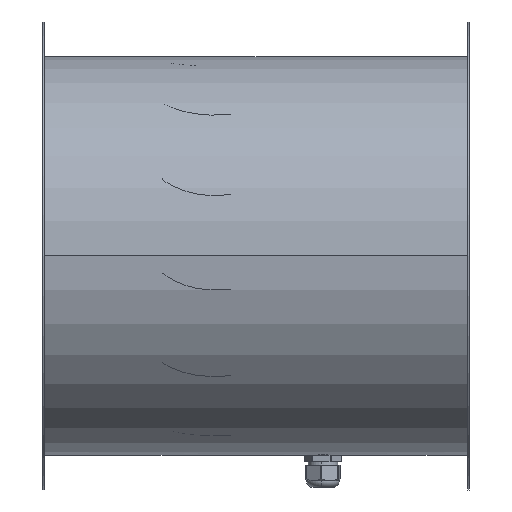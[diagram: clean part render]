
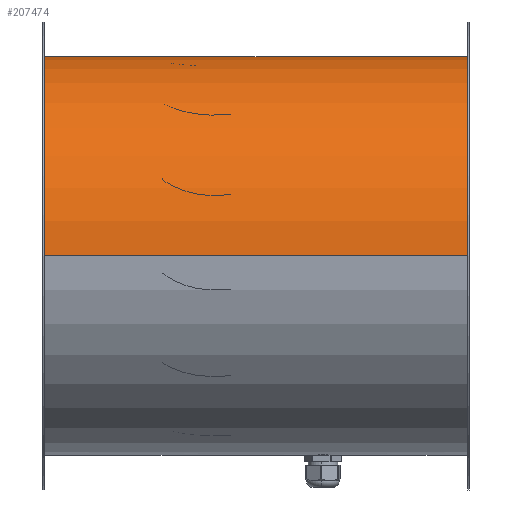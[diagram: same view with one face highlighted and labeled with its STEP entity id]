
A CAD part, top view. The second image highlights one B-rep face of the part: STEP entity #207474.
In plain terms, the highlighted cylindrical face has radius 178.75 mm (diameter 357.5 mm), a partial arc.
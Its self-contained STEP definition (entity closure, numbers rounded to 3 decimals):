
#3845 = VERTEX_POINT ( 'NONE', #235396 ) ;
#7949 = LINE ( 'NONE', #234521, #203206 ) ;
#8010 = CARTESIAN_POINT ( 'NONE',  ( -89.5, 3.021, -178.724 ) ) ;
#11393 = ORIENTED_EDGE ( 'NONE', *, *, #118586, .T. ) ;
#12224 = DIRECTION ( 'NONE',  ( 1., 0., 0. ) ) ;
#15870 = CARTESIAN_POINT ( 'NONE',  ( 288.5, 3., -178.725 ) ) ;
#16399 = CARTESIAN_POINT ( 'NONE',  ( 289.125, 0., 178.75 ) ) ;
#17296 = CIRCLE ( 'NONE', #168995, 178.75 ) ;
#17955 = DIRECTION ( 'NONE',  ( 0., 0., 1. ) ) ;
#25740 = LINE ( 'NONE', #149273, #120449 ) ;
#25777 = VERTEX_POINT ( 'NONE', #28941 ) ;
#28941 = CARTESIAN_POINT ( 'NONE',  ( -90.125, 0., 178.75 ) ) ;
#36493 = DIRECTION ( 'NONE',  ( 1., 0., 0. ) ) ;
#36636 = ORIENTED_EDGE ( 'NONE', *, *, #55218, .F. ) ;
#37504 = AXIS2_PLACEMENT_3D ( 'NONE', #244515, #131285, #17955 ) ;
#39262 = CARTESIAN_POINT ( 'NONE',  ( 288.5, 0., 0. ) ) ;
#39878 = ORIENTED_EDGE ( 'NONE', *, *, #91729, .F. ) ;
#41606 = ORIENTED_EDGE ( 'NONE', *, *, #157652, .T. ) ;
#46115 = LINE ( 'NONE', #186198, #134903 ) ;
#47215 = EDGE_CURVE ( 'NONE', #3845, #157402, #176680, .T. ) ;
#47762 = EDGE_LOOP ( 'NONE', ( #204465, #214869, #41606, #36636, #59880, #77276, #11393, #39878, #79092, #74384 ) ) ;
#52414 = DIRECTION ( 'NONE',  ( 1., 0., 0. ) ) ;
#52544 = VERTEX_POINT ( 'NONE', #152433 ) ;
#53114 = FACE_OUTER_BOUND ( 'NONE', #47762, .T. ) ;
#55218 = EDGE_CURVE ( 'NONE', #127290, #163309, #182644, .T. ) ;
#55873 = CARTESIAN_POINT ( 'NONE',  ( -90.125, 0., 0. ) ) ;
#58278 = DIRECTION ( 'NONE',  ( 0., 0., 1. ) ) ;
#59880 = ORIENTED_EDGE ( 'NONE', *, *, #132353, .F. ) ;
#63837 = EDGE_CURVE ( 'NONE', #52544, #25777, #185278, .T. ) ;
#64199 = AXIS2_PLACEMENT_3D ( 'NONE', #84837, #217110, #103878 ) ;
#64379 = CIRCLE ( 'NONE', #64199, 178.75 ) ;
#70465 = AXIS2_PLACEMENT_3D ( 'NONE', #85549, #104576, #198790 ) ;
#74384 = ORIENTED_EDGE ( 'NONE', *, *, #216304, .F. ) ;
#74492 = VERTEX_POINT ( 'NONE', #222521 ) ;
#74910 = DIRECTION ( 'NONE',  ( 0., 0., 1. ) ) ;
#77276 = ORIENTED_EDGE ( 'NONE', *, *, #47215, .T. ) ;
#79092 = ORIENTED_EDGE ( 'NONE', *, *, #214834, .F. ) ;
#84837 = CARTESIAN_POINT ( 'NONE',  ( 288.5, 0., 0. ) ) ;
#85549 = CARTESIAN_POINT ( 'NONE',  ( -89.5, 0., 0. ) ) ;
#91729 = EDGE_CURVE ( 'NONE', #150315, #74492, #160246, .T. ) ;
#99556 = AXIS2_PLACEMENT_3D ( 'NONE', #149798, #36493, #168797 ) ;
#103036 = CARTESIAN_POINT ( 'NONE',  ( 289.125, 0., -178.75 ) ) ;
#103878 = DIRECTION ( 'NONE',  ( 0., 0., 1. ) ) ;
#104576 = DIRECTION ( 'NONE',  ( 1., 0., 0. ) ) ;
#108657 = CARTESIAN_POINT ( 'NONE',  ( -89.5, 3.021, -178.724 ) ) ;
#109982 = VECTOR ( 'NONE', #52414, 1000. ) ;
#117867 = VERTEX_POINT ( 'NONE', #212208 ) ;
#118586 = EDGE_CURVE ( 'NONE', #157402, #74492, #64379, .T. ) ;
#120449 = VECTOR ( 'NONE', #168280, 1000. ) ;
#125535 = CARTESIAN_POINT ( 'NONE',  ( -89.5, 0., 0. ) ) ;
#127290 = VERTEX_POINT ( 'NONE', #103036 ) ;
#129617 = VERTEX_POINT ( 'NONE', #227692 ) ;
#131243 = EDGE_CURVE ( 'NONE', #52544, #117867, #25740, .T. ) ;
#131285 = DIRECTION ( 'NONE',  ( 1., 0., 0. ) ) ;
#132353 = EDGE_CURVE ( 'NONE', #3845, #127290, #7949, .T. ) ;
#134903 = VECTOR ( 'NONE', #243248, 1000. ) ;
#144467 = CIRCLE ( 'NONE', #37504, 178.75 ) ;
#144544 = DIRECTION ( 'NONE',  ( 0., 0., 1. ) ) ;
#149273 = CARTESIAN_POINT ( 'NONE',  ( -89.5, 0., -178.75 ) ) ;
#149798 = CARTESIAN_POINT ( 'NONE',  ( 289.125, 0., 0. ) ) ;
#150315 = VERTEX_POINT ( 'NONE', #8010 ) ;
#152433 = CARTESIAN_POINT ( 'NONE',  ( -90.125, 0., -178.75 ) ) ;
#157402 = VERTEX_POINT ( 'NONE', #15870 ) ;
#157652 = EDGE_CURVE ( 'NONE', #25777, #163309, #46115, .T. ) ;
#160246 = LINE ( 'NONE', #108657, #109982 ) ;
#163309 = VERTEX_POINT ( 'NONE', #16399 ) ;
#168280 = DIRECTION ( 'NONE',  ( 1., 0., 0. ) ) ;
#168797 = DIRECTION ( 'NONE',  ( 0., 0., 1. ) ) ;
#168995 = AXIS2_PLACEMENT_3D ( 'NONE', #125535, #12224, #144544 ) ;
#171551 = DIRECTION ( 'NONE',  ( 1., 0., 0. ) ) ;
#176680 = CIRCLE ( 'NONE', #216864, 178.75 ) ;
#178300 = DIRECTION ( 'NONE',  ( 1., 0., 0. ) ) ;
#182644 = CIRCLE ( 'NONE', #99556, 178.75 ) ;
#185278 = CIRCLE ( 'NONE', #240760, 178.75 ) ;
#186198 = CARTESIAN_POINT ( 'NONE',  ( -89.5, 0., 178.75 ) ) ;
#188171 = DIRECTION ( 'NONE',  ( 1., 0., 0. ) ) ;
#198049 = CYLINDRICAL_SURFACE ( 'NONE', #70465, 178.75 ) ;
#198790 = DIRECTION ( 'NONE',  ( 0., 0., 1. ) ) ;
#203206 = VECTOR ( 'NONE', #178300, 1000. ) ;
#204465 = ORIENTED_EDGE ( 'NONE', *, *, #131243, .F. ) ;
#207474 = ADVANCED_FACE ( 'NONE', ( #53114 ), #198049, .T. ) ;
#212208 = CARTESIAN_POINT ( 'NONE',  ( -89.5, 0., -178.75 ) ) ;
#214834 = EDGE_CURVE ( 'NONE', #129617, #150315, #17296, .T. ) ;
#214869 = ORIENTED_EDGE ( 'NONE', *, *, #63837, .T. ) ;
#216304 = EDGE_CURVE ( 'NONE', #117867, #129617, #144467, .T. ) ;
#216864 = AXIS2_PLACEMENT_3D ( 'NONE', #39262, #171551, #58278 ) ;
#217110 = DIRECTION ( 'NONE',  ( 1., 0., 0. ) ) ;
#222521 = CARTESIAN_POINT ( 'NONE',  ( 288.5, 3.021, -178.724 ) ) ;
#227692 = CARTESIAN_POINT ( 'NONE',  ( -89.5, 3., -178.725 ) ) ;
#234521 = CARTESIAN_POINT ( 'NONE',  ( -89.5, 0., -178.75 ) ) ;
#235396 = CARTESIAN_POINT ( 'NONE',  ( 288.5, 0., -178.75 ) ) ;
#240760 = AXIS2_PLACEMENT_3D ( 'NONE', #55873, #188171, #74910 ) ;
#243248 = DIRECTION ( 'NONE',  ( 1., 0., 0. ) ) ;
#244515 = CARTESIAN_POINT ( 'NONE',  ( -89.5, 0., 0. ) ) ;
